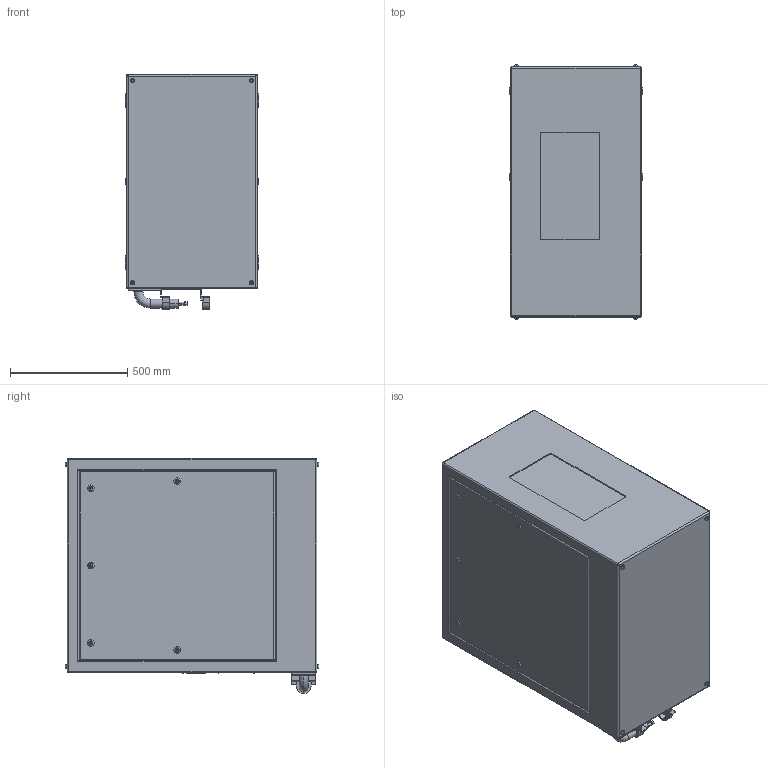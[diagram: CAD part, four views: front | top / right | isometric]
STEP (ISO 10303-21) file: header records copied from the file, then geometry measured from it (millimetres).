
FILE_DESCRIPTION (( 'STEP AP214' ), '1' );
FILE_NAME ('Oasis 59.200.P R02.STEP', '2022-09-12T23:36:35', ( '' ), ( '' ), 'SwSTEP 2.0', 'SolidWorks 2020', '' );
FILE_SCHEMA (( 'AUTOMOTIVE_DESIGN' ));
Length unit declared in the file: inch
Products named in the file (1): Oasis 59.200.P R02
Bounding box: 571.5 x 1084.07 x 1003.3 mm (x, y, z)
Volume: 544244282.8 mm3; surface area: 4730930 mm2
Topology: 3 solids, 9 shells, 540 faces, 1233 edges, 782 vertices
Faces by surface type: plane 297, cylinder 185, torus 50, bspline 8
Entity records: 20635 total; most frequent: CARTESIAN_POINT 3068, DIRECTION 2691, ORIENTED_EDGE 2450, EDGE_CURVE 1225, AXIS2_PLACEMENT_3D 965, VERTEX_POINT 782, LINE 761, VECTOR 761
